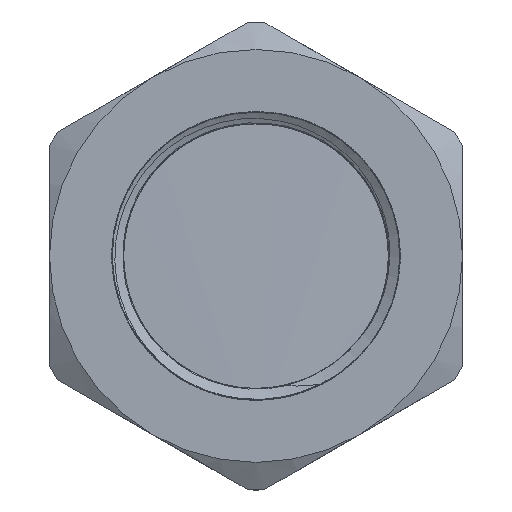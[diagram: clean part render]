
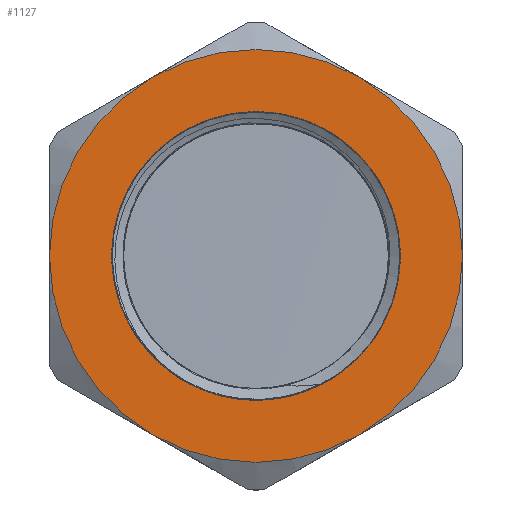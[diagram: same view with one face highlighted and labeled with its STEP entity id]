
A CAD part, top view. The second image highlights one B-rep face of the part: STEP entity #1127.
In plain terms, the highlighted planar face has unit normal (0, 0, 1).
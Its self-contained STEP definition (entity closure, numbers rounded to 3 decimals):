
#110=FACE_BOUND('',#340,.T.);
#124=PLANE('',#1240);
#270=FACE_OUTER_BOUND('',#339,.T.);
#339=EDGE_LOOP('',(#831,#832,#833,#834,#835,#836));
#340=EDGE_LOOP('',(#837,#838));
#395=CIRCLE('',#1199,30.);
#397=CIRCLE('',#1202,30.);
#399=CIRCLE('',#1205,30.);
#400=CIRCLE('',#1207,30.);
#402=CIRCLE('',#1210,30.);
#404=CIRCLE('',#1213,30.);
#417=CIRCLE('',#1241,20.955);
#418=CIRCLE('',#1242,20.955);
#451=VERTEX_POINT('',#1545);
#453=VERTEX_POINT('',#1551);
#455=VERTEX_POINT('',#1558);
#458=VERTEX_POINT('',#1570);
#461=VERTEX_POINT('',#1585);
#464=VERTEX_POINT('',#1597);
#485=VERTEX_POINT('',#1677);
#486=VERTEX_POINT('',#1678);
#570=EDGE_CURVE('',#451,#453,#395,.T.);
#574=EDGE_CURVE('',#455,#451,#397,.T.);
#578=EDGE_CURVE('',#458,#455,#399,.T.);
#580=EDGE_CURVE('',#461,#458,#400,.T.);
#584=EDGE_CURVE('',#464,#461,#402,.T.);
#588=EDGE_CURVE('',#453,#464,#404,.T.);
#621=EDGE_CURVE('',#485,#486,#417,.T.);
#622=EDGE_CURVE('',#486,#485,#418,.T.);
#831=ORIENTED_EDGE('',*,*,#588,.T.);
#832=ORIENTED_EDGE('',*,*,#584,.T.);
#833=ORIENTED_EDGE('',*,*,#580,.T.);
#834=ORIENTED_EDGE('',*,*,#578,.T.);
#835=ORIENTED_EDGE('',*,*,#574,.T.);
#836=ORIENTED_EDGE('',*,*,#570,.T.);
#837=ORIENTED_EDGE('',*,*,#621,.F.);
#838=ORIENTED_EDGE('',*,*,#622,.F.);
#1127=ADVANCED_FACE('',(#270,#110),#124,.T.);
#1199=AXIS2_PLACEMENT_3D('',#1555,#1303,#1304);
#1202=AXIS2_PLACEMENT_3D('',#1567,#1309,#1310);
#1205=AXIS2_PLACEMENT_3D('',#1579,#1315,#1316);
#1207=AXIS2_PLACEMENT_3D('',#1586,#1319,#1320);
#1210=AXIS2_PLACEMENT_3D('',#1598,#1325,#1326);
#1213=AXIS2_PLACEMENT_3D('',#1609,#1331,#1332);
#1240=AXIS2_PLACEMENT_3D('',#1676,#1404,#1405);
#1241=AXIS2_PLACEMENT_3D('',#1679,#1406,#1407);
#1242=AXIS2_PLACEMENT_3D('',#1680,#1408,#1409);
#1303=DIRECTION('center_axis',(0.,0.,1.));
#1304=DIRECTION('ref_axis',(0.,1.,0.));
#1309=DIRECTION('center_axis',(0.,0.,1.));
#1310=DIRECTION('ref_axis',(0.,1.,0.));
#1315=DIRECTION('center_axis',(0.,0.,1.));
#1316=DIRECTION('ref_axis',(0.,1.,0.));
#1319=DIRECTION('center_axis',(0.,0.,1.));
#1320=DIRECTION('ref_axis',(0.,1.,0.));
#1325=DIRECTION('center_axis',(0.,0.,1.));
#1326=DIRECTION('ref_axis',(0.,1.,0.));
#1331=DIRECTION('center_axis',(0.,0.,1.));
#1332=DIRECTION('ref_axis',(0.,1.,0.));
#1404=DIRECTION('center_axis',(0.,0.,1.));
#1405=DIRECTION('ref_axis',(1.,0.,0.));
#1406=DIRECTION('center_axis',(0.,0.,1.));
#1407=DIRECTION('ref_axis',(1.,0.,0.));
#1408=DIRECTION('center_axis',(0.,0.,1.));
#1409=DIRECTION('ref_axis',(1.,0.,0.));
#1545=CARTESIAN_POINT('',(30.,0.,24.5));
#1551=CARTESIAN_POINT('',(15.,25.981,24.5));
#1555=CARTESIAN_POINT('Origin',(0.,0.,24.5));
#1558=CARTESIAN_POINT('',(15.,-25.981,24.5));
#1567=CARTESIAN_POINT('Origin',(0.,0.,24.5));
#1570=CARTESIAN_POINT('',(-15.,-25.981,24.5));
#1579=CARTESIAN_POINT('Origin',(0.,0.,24.5));
#1585=CARTESIAN_POINT('',(-30.,0.,24.5));
#1586=CARTESIAN_POINT('Origin',(0.,0.,24.5));
#1597=CARTESIAN_POINT('',(-15.,25.981,24.5));
#1598=CARTESIAN_POINT('Origin',(0.,0.,24.5));
#1609=CARTESIAN_POINT('Origin',(0.,0.,24.5));
#1676=CARTESIAN_POINT('Origin',(0.,-20.955,24.5));
#1677=CARTESIAN_POINT('',(0.,-20.955,24.5));
#1678=CARTESIAN_POINT('',(0.,20.955,24.5));
#1679=CARTESIAN_POINT('Origin',(0.,0.,24.5));
#1680=CARTESIAN_POINT('Origin',(0.,0.,24.5));
